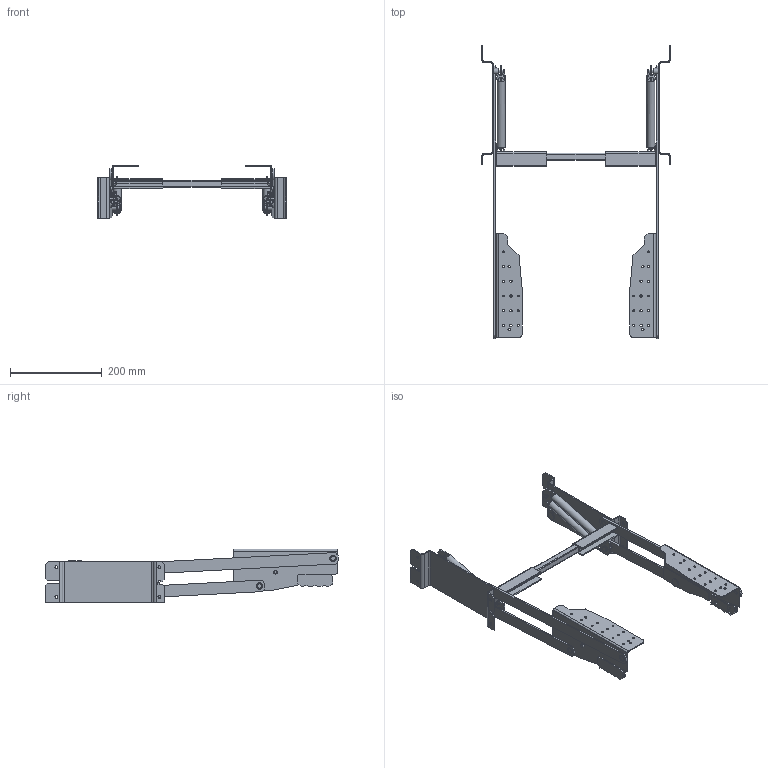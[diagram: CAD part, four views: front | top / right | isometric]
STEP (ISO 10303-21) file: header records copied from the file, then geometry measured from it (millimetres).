
FILE_DESCRIPTION(('STEP AP242'),'1');
FILE_NAME('OPO_53.491.03_volu_3d.stp','2025-11-08T20:32:16',(' '),(' '),'Spatial InterOp 3D',' ',' ');
FILE_SCHEMA(('AP242_MANAGED_MODEL_BASED_3D_ENGINEERING_MIM_LF {1 0 10303 442 1 1 4}'));
Length unit declared in the file: millimetre
Products named in the file (1): 1
Bounding box: 410 x 637.42 x 116.46 mm (x, y, z)
Volume: 717673 mm3; surface area: 537200.8 mm2
Topology: 30 solids, 30 shells, 858 faces, 2254 edges, 1480 vertices
Faces by surface type: plane 496, cylinder 322, bspline 20, torus 16, cone 4
Entity records: 40350 total; most frequent: CARTESIAN_POINT 11436, DIRECTION 4646, ORIENTED_EDGE 4508, EDGE_CURVE 2254, AXIS2_PLACEMENT_3D 1630, VERTEX_POINT 1480, LINE 1386, VECTOR 1386
